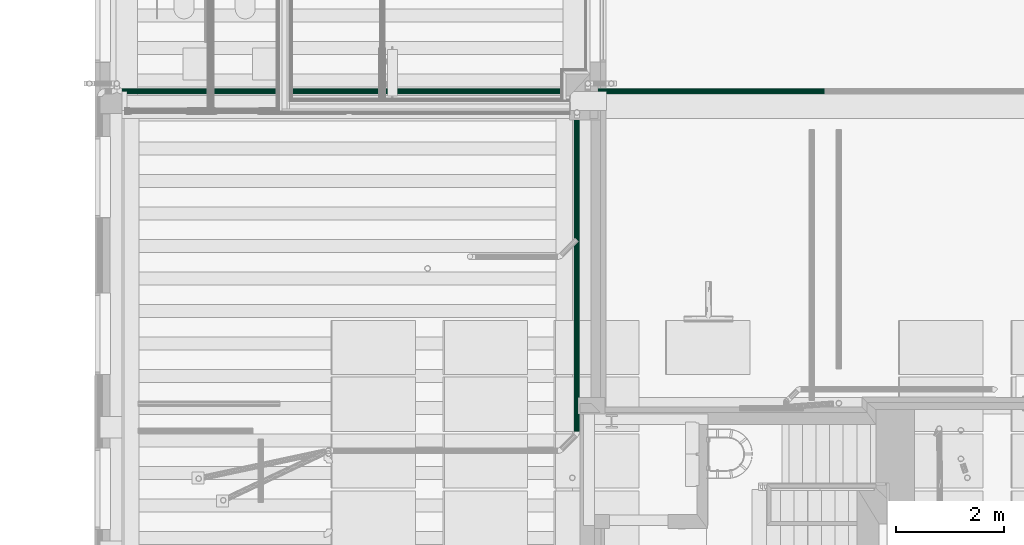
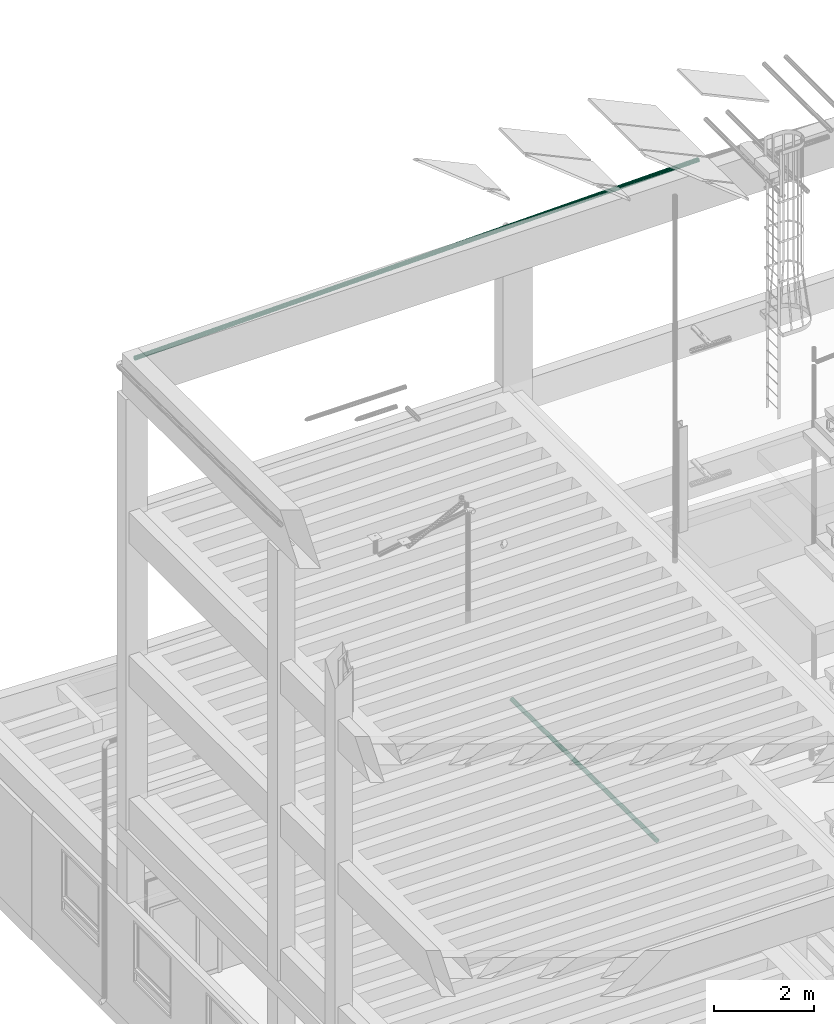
# One storey, part 49 of 108: 2 flow segments.
"""IFC2X3 building model written with IfcOpenShell, lengths in metres."""

from ifc_helpers import new_model, entity, si_unit, converted_unit, derived_unit, money_unit, direction, frame, origin_with_axes, place, context, subcontext, project, spatial, faceted_brep, material, type_object, element, save


model = new_model("IFC2X3")

# Units and contexts
model_context = context("Model", 3, precision=1e-05, world=origin_with_axes(), true_north=direction((0.0, 1.0)))
body_context = subcontext(model_context, "Body", "Model", "MODEL_VIEW", scale=1.0)
ifc_project = project(units=[si_unit("LENGTHUNIT", "METRE"), si_unit("AREAUNIT", "SQUARE_METRE"), si_unit("VOLUMEUNIT", "CUBIC_METRE"), si_unit("ABSORBEDDOSEUNIT", "GRAY"), si_unit("AMOUNTOFSUBSTANCEUNIT", "MOLE"), si_unit("DOSEEQUIVALENTUNIT", "SIEVERT"), si_unit("ELECTRICCAPACITANCEUNIT", "FARAD"), si_unit("ELECTRICCHARGEUNIT", "COULOMB"), si_unit("ELECTRICCONDUCTANCEUNIT", "SIEMENS"), si_unit("ELECTRICCURRENTUNIT", "AMPERE"), si_unit("ELECTRICRESISTANCEUNIT", "OHM"), si_unit("ELECTRICVOLTAGEUNIT", "VOLT"), si_unit("ENERGYUNIT", "JOULE"), si_unit("FORCEUNIT", "NEWTON"), si_unit("FREQUENCYUNIT", "HERTZ"), si_unit("ILLUMINANCEUNIT", "LUX"), si_unit("INDUCTANCEUNIT", "HENRY"), si_unit("LUMINOUSFLUXUNIT", "LUMEN"), si_unit("LUMINOUSINTENSITYUNIT", "CANDELA"), si_unit("MAGNETICFLUXDENSITYUNIT", "TESLA"), si_unit("MAGNETICFLUXUNIT", "WEBER"), si_unit("MASSUNIT", "GRAM"), converted_unit("PLANEANGLEUNIT", "degree", entity("IfcReal", 0.0174532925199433), si_unit("PLANEANGLEUNIT", "RADIAN"), dimensions=[0, 0, 0, 0, 0, 0, 0]), si_unit("POWERUNIT", "WATT"), si_unit("PRESSUREUNIT", "PASCAL"), si_unit("RADIOACTIVITYUNIT", "BECQUEREL"), si_unit("SOLIDANGLEUNIT", "STERADIAN"), si_unit("THERMODYNAMICTEMPERATUREUNIT", "KELVIN"), si_unit("TIMEUNIT", "SECOND"), derived_unit("ACCELERATIONUNIT", [(si_unit("LENGTHUNIT", "METRE"), 1), (si_unit("TIMEUNIT", "SECOND"), -2)]), derived_unit("ANGULARVELOCITYUNIT", [(converted_unit("PLANEANGLEUNIT", "degree", entity("IfcReal", 0.0174532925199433), si_unit("PLANEANGLEUNIT", "RADIAN"), dimensions=[0, 0, 0, 0, 0, 0, 0]), 1), (si_unit("TIMEUNIT", "SECOND"), -1)]), derived_unit("CURVATUREUNIT", [(converted_unit("PLANEANGLEUNIT", "degree", entity("IfcReal", 0.0174532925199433), si_unit("PLANEANGLEUNIT", "RADIAN"), dimensions=[0, 0, 0, 0, 0, 0, 0]), 1), (si_unit("LENGTHUNIT", "METRE"), -1)]), derived_unit("DYNAMICVISCOSITYUNIT", [(si_unit("PRESSUREUNIT", "PASCAL"), 1), (si_unit("TIMEUNIT", "SECOND"), 1)]), derived_unit("HEATFLUXDENSITYUNIT", [(si_unit("POWERUNIT", "WATT"), 1), (si_unit("LENGTHUNIT", "METRE"), -2)]), derived_unit("HEATINGVALUEUNIT", [(si_unit("ENERGYUNIT", "JOULE"), 1), (si_unit("MASSUNIT", "GRAM"), -1)]), derived_unit("INTEGERCOUNTRATEUNIT", [(si_unit("TIMEUNIT", "SECOND"), -1)]), derived_unit("IONCONCENTRATIONUNIT", [(si_unit("MASSUNIT", "GRAM"), 1), (si_unit("VOLUMEUNIT", "CUBIC_METRE"), -1)]), derived_unit("ISOTHERMALMOISTURECAPACITYUNIT", [(si_unit("VOLUMEUNIT", "CUBIC_METRE"), 1), (si_unit("MASSUNIT", "GRAM"), -1)]), derived_unit("KINEMATICVISCOSITYUNIT", [(si_unit("AREAUNIT", "SQUARE_METRE"), 1), (si_unit("TIMEUNIT", "SECOND"), -1)]), derived_unit("LINEARFORCEUNIT", [(si_unit("FORCEUNIT", "NEWTON"), 1), (si_unit("LENGTHUNIT", "METRE"), -1)]), derived_unit("LINEARMOMENTUNIT", [(si_unit("FORCEUNIT", "NEWTON"), 1), (si_unit("LENGTHUNIT", "METRE"), -1)]), derived_unit("LINEARSTIFFNESSUNIT", [(si_unit("FORCEUNIT", "NEWTON"), 1), (si_unit("LENGTHUNIT", "METRE"), -1)]), derived_unit("LINEARVELOCITYUNIT", [(si_unit("LENGTHUNIT", "METRE"), 1), (si_unit("TIMEUNIT", "SECOND"), -1)]), derived_unit("LUMINOUSINTENSITYDISTRIBUTIONUNIT", [(si_unit("LUMINOUSINTENSITYUNIT", "CANDELA"), 1), (si_unit("LUMINOUSFLUXUNIT", "LUMEN"), -1)]), derived_unit("MASSDENSITYUNIT", [(si_unit("MASSUNIT", "GRAM"), 1), (si_unit("VOLUMEUNIT", "CUBIC_METRE"), -1)]), derived_unit("MASSFLOWRATEUNIT", [(si_unit("MASSUNIT", "GRAM"), 1), (si_unit("TIMEUNIT", "SECOND"), -1)]), derived_unit("MASSPERLENGTHUNIT", [(si_unit("MASSUNIT", "GRAM"), 1), (si_unit("LENGTHUNIT", "METRE"), -1)]), derived_unit("MODULUSOFELASTICITYUNIT", [(si_unit("FORCEUNIT", "NEWTON"), 1), (si_unit("AREAUNIT", "SQUARE_METRE"), -1)]), derived_unit("MODULUSOFLINEARSUBGRADEREACTIONUNIT", [(si_unit("FORCEUNIT", "NEWTON"), 1), (si_unit("LENGTHUNIT", "METRE"), -2)]), derived_unit("MODULUSOFROTATIONALSUBGRADEREACTIONUNIT", [(si_unit("FORCEUNIT", "NEWTON"), 1), (si_unit("LENGTHUNIT", "METRE"), 1)]), derived_unit("MODULUSOFSUBGRADEREACTIONUNIT", [(si_unit("FORCEUNIT", "NEWTON"), 1), (si_unit("VOLUMEUNIT", "CUBIC_METRE"), -1)]), derived_unit("MOISTUREDIFFUSIVITYUNIT", [(si_unit("VOLUMEUNIT", "CUBIC_METRE"), 1), (si_unit("TIMEUNIT", "SECOND"), -1)]), derived_unit("MOLECULARWEIGHTUNIT", [(si_unit("MASSUNIT", "GRAM"), 1), (si_unit("AMOUNTOFSUBSTANCEUNIT", "MOLE"), -1)]), derived_unit("PLANARFORCEUNIT", [(si_unit("FORCEUNIT", "NEWTON"), 1), (si_unit("LENGTHUNIT", "METRE"), -2)]), derived_unit("ROTATIONALFREQUENCYUNIT", [(si_unit("TIMEUNIT", "SECOND"), -1)]), derived_unit("ROTATIONALMASSUNIT", [(si_unit("MASSUNIT", "GRAM"), 1), (si_unit("LENGTHUNIT", "METRE"), 2)]), derived_unit("ROTATIONALSTIFFNESSUNIT", [(si_unit("FORCEUNIT", "NEWTON"), 1), (si_unit("LENGTHUNIT", "METRE"), 1), (converted_unit("PLANEANGLEUNIT", "degree", entity("IfcReal", 0.0174532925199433), si_unit("PLANEANGLEUNIT", "RADIAN"), dimensions=[0, 0, 0, 0, 0, 0, 0]), -1)]), derived_unit("SECTIONAREAINTEGRALUNIT", [(si_unit("LENGTHUNIT", "METRE"), 5)]), derived_unit("SECTIONMODULUSUNIT", [(si_unit("LENGTHUNIT", "METRE"), 3)]), derived_unit("SHEARMODULUSUNIT", [(si_unit("FORCEUNIT", "NEWTON"), 1), (si_unit("AREAUNIT", "SQUARE_METRE"), -1)]), derived_unit("SOUNDPOWERUNIT", [(si_unit("ENERGYUNIT", "JOULE"), 1), (si_unit("TIMEUNIT", "SECOND"), -1)]), derived_unit("SPECIFICHEATCAPACITYUNIT", [(si_unit("FORCEUNIT", "NEWTON"), 1), (si_unit("MASSUNIT", "GRAM"), -1), (si_unit("THERMODYNAMICTEMPERATUREUNIT", "KELVIN"), -1)]), derived_unit("TEMPERATUREGRADIENTUNIT", [(si_unit("THERMODYNAMICTEMPERATUREUNIT", "KELVIN"), 1), (si_unit("LENGTHUNIT", "METRE"), -1)]), derived_unit("THERMALADMITTANCEUNIT", [(si_unit("POWERUNIT", "WATT"), 1), (si_unit("AREAUNIT", "SQUARE_METRE"), -1), (si_unit("THERMODYNAMICTEMPERATUREUNIT", "KELVIN"), -1)]), derived_unit("THERMALCONDUCTANCEUNIT", [(si_unit("POWERUNIT", "WATT"), 1), (si_unit("LENGTHUNIT", "METRE"), -1), (si_unit("THERMODYNAMICTEMPERATUREUNIT", "KELVIN"), -1)]), derived_unit("THERMALEXPANSIONCOEFFICIENTUNIT", [(si_unit("THERMODYNAMICTEMPERATUREUNIT", "KELVIN"), -1)]), derived_unit("THERMALRESISTANCEUNIT", [(si_unit("AREAUNIT", "SQUARE_METRE"), 1), (si_unit("POWERUNIT", "WATT"), -1)]), derived_unit("THERMALTRANSMITTANCEUNIT", [(si_unit("POWERUNIT", "WATT"), 1), (si_unit("AREAUNIT", "SQUARE_METRE"), -1), (si_unit("THERMODYNAMICTEMPERATUREUNIT", "KELVIN"), -1)]), derived_unit("TORQUEUNIT", [(si_unit("FORCEUNIT", "NEWTON"), 1), (si_unit("LENGTHUNIT", "METRE"), 1)]), derived_unit("VAPORPERMEABILITYUNIT", [(si_unit("MASSUNIT", "GRAM"), 1), (si_unit("TIMEUNIT", "SECOND"), -1)]), derived_unit("VOLUMETRICFLOWRATEUNIT", [(si_unit("VOLUMEUNIT", "CUBIC_METRE"), 1), (si_unit("TIMEUNIT", "SECOND"), -1)]), derived_unit("WARPINGCONSTANTUNIT", [(si_unit("LENGTHUNIT", "METRE"), 6)]), derived_unit("WARPINGMOMENTUNIT", [(si_unit("FORCEUNIT", "NEWTON"), 1), (si_unit("LENGTHUNIT", "METRE"), 2)]), money_unit("GBP")], contexts=[model_context])

# Site, building, storey, space
site_placement = place(None, origin_with_axes())
site = spatial("IfcSite", under=ifc_project, at=site_placement, Name="Site", CompositionType="ELEMENT")
building_placement = place(site_placement, origin_with_axes())
building = spatial("IfcBuilding", under=site, at=building_placement, Name="Building01", CompositionType="ELEMENT")
storey_placement = place(building_placement, origin_with_axes())
storey = spatial("IfcBuildingStorey", under=building, at=storey_placement, Name="GF", CompositionType="ELEMENT", Elevation=0.0)
space_placement = place(storey_placement, frame((3.380525, 16.69365, 0.216987), z_axis=(0.0, 0.0, 1.0), x_axis=(-1.0, 0.0, 0.0)))
space = spatial("IfcSpace", under=storey, at=space_placement, Name="0", CompositionType="ELEMENT", InteriorOrExteriorSpace="NOTDEFINED")

# Flow segments
ifc_material = material(Name="M_BSUK_ColdWater")
pipe_segment_type = type_object("IfcPipeSegmentType", Name="M-BmpStraightpipe-DefaultPipe", PredefinedType="RIGIDSEGMENT")
flow_segment_1_placement = place(storey_placement, frame((8.909935, 8.519261, 4.617185), z_axis=(0.0, 0.01249902, 0.99992188), x_axis=(0.0, 0.99992188, -0.01249902)))
element("IfcFlowSegment", 1, at=flow_segment_1_placement, inside=space, type_object=pipe_segment_type, material=ifc_material, Name="M-BmpStraightpipe-DefaultPipe", ObjectType="M-BmpStraightpipe-DefaultPipe", context=body_context, shape_type="Brep", body=[
    faceted_brep([(5.796236, 0.0, -0.05), (0.0, 0.0, -0.05), (0.0, 0.019134, -0.046194), (5.796236, 0.019134, -0.046194), (0.0, 0.035355, -0.035355), (5.796236, 0.035355, -0.035355), (0.0, 0.046194, -0.019134), (5.796236, 0.046194, -0.019134), (0.0, 0.05, 0.0), (5.796236, 0.05, 0.0), (0.0, 0.046194, 0.019134), (5.796236, 0.046194, 0.019134), (0.0, 0.035355, 0.035355), (5.796236, 0.035355, 0.035355), (0.0, 0.019134, 0.046194), (5.796236, 0.019134, 0.046194), (0.0, 0.0, 0.05), (5.796236, 0.0, 0.05), (0.0, -0.019134, 0.046194), (5.796236, -0.019134, 0.046194), (0.0, -0.035355, 0.035355), (5.796236, -0.035355, 0.035355), (0.0, -0.046194, 0.019134), (5.796236, -0.046194, 0.019134), (0.0, -0.05, 0.0), (5.796236, -0.05, 0.0), (0.0, -0.046194, -0.019134), (5.796236, -0.046194, -0.019134), (0.0, -0.035355, -0.035355), (5.796236, -0.035355, -0.035355), (0.0, -0.019134, -0.046194), (5.796236, -0.019134, -0.046194)], [[[0, 1, 2, 3]], [[3, 2, 4, 5]], [[5, 4, 6, 7]], [[7, 6, 8, 9]], [[9, 8, 10, 11]], [[11, 10, 12, 13]], [[13, 12, 14, 15]], [[15, 14, 16, 17]], [[17, 16, 18, 19]], [[19, 18, 20, 21]], [[21, 20, 22, 23]], [[23, 22, 24, 25]], [[25, 24, 26, 27]], [[27, 26, 28, 29]], [[29, 28, 30, 31]], [[31, 30, 1, 0]]]),
])
flow_segment_2_placement = place(storey_placement, frame((0.507565, 14.80601, 15.488175), z_axis=(0.0, -1.0, 0.0), x_axis=(-0.99974756, 0.0, -0.02246817)))
element("IfcFlowSegment", 2, at=flow_segment_2_placement, inside=storey, type_object=pipe_segment_type, material=ifc_material, Name="M-BmpStraightpipe-DefaultPipe", ObjectType="M-BmpStraightpipe-DefaultPipe", context=body_context, shape_type="Brep", body=[
    faceted_brep([(-12.987871, 0.0, -0.05), (0.0, 0.0, -0.05), (0.0, -0.019134, -0.046194), (-12.987871, -0.019134, -0.046194), (0.0, -0.035355, -0.035355), (-12.987871, -0.035355, -0.035355), (0.0, -0.046194, -0.019134), (-12.987871, -0.046194, -0.019134), (0.0, -0.05, 0.0), (-12.987871, -0.05, 0.0), (0.0, -0.046194, 0.019134), (-12.987871, -0.046194, 0.019134), (0.0, -0.035355, 0.035355), (-12.987871, -0.035355, 0.035355), (0.0, -0.019134, 0.046194), (-12.987871, -0.019134, 0.046194), (0.0, 0.0, 0.05), (-12.987871, 0.0, 0.05), (0.0, 0.019134, 0.046194), (-12.987871, 0.019134, 0.046194), (0.0, 0.035355, 0.035355), (-12.987871, 0.035355, 0.035355), (0.0, 0.046194, 0.019134), (-12.987871, 0.046194, 0.019134), (0.0, 0.05, 0.0), (-12.987871, 0.05, 0.0), (0.0, 0.046194, -0.019134), (-12.987871, 0.046194, -0.019134), (0.0, 0.035355, -0.035355), (-12.987871, 0.035355, -0.035355), (0.0, 0.019134, -0.046194), (-12.987871, 0.019134, -0.046194)], [[[0, 1, 2, 3]], [[3, 2, 4, 5]], [[5, 4, 6, 7]], [[7, 6, 8, 9]], [[9, 8, 10, 11]], [[11, 10, 12, 13]], [[13, 12, 14, 15]], [[15, 14, 16, 17]], [[17, 16, 18, 19]], [[19, 18, 20, 21]], [[21, 20, 22, 23]], [[23, 22, 24, 25]], [[25, 24, 26, 27]], [[27, 26, 28, 29]], [[29, 28, 30, 31]], [[31, 30, 1, 0]]]),
])

save(model, "model.ifc")
